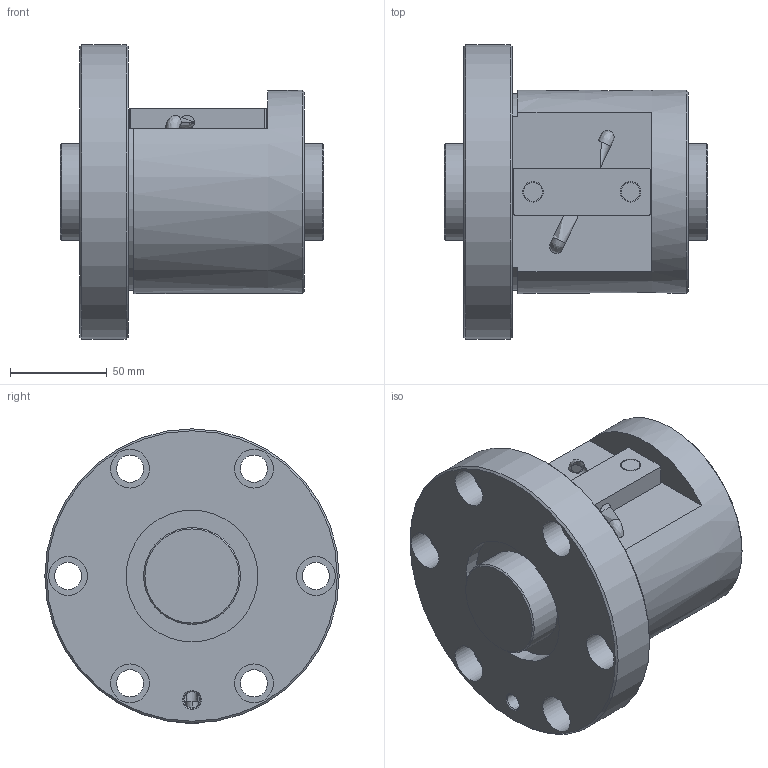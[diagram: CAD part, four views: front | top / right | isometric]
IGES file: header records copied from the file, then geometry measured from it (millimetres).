
Start section: Data from Parasolid IGES Translator 26.0.171, Copyright(c) 2006 Siemens PLM Software. All Rights Reserved.
Global section: file name: BNF5016V-2.5RRG1+136LC0_000_rev.igs; native system: By Siemens PLM Incorporated; preprocessor: XPlus GENERIC/IGES 26.0.171; author: Noname; organization: Noname; date: 20240806.091000; units: millimetre
Bounding box: 136 x 152 x 152 mm (x, y, z)
Surface area: 130651.6 mm2 (no closed solid volume)
Topology: 0 solids, 0 shells, 72 faces, 316 edges, 282 vertices
Faces by surface type: revolution 45, extrusion 27
